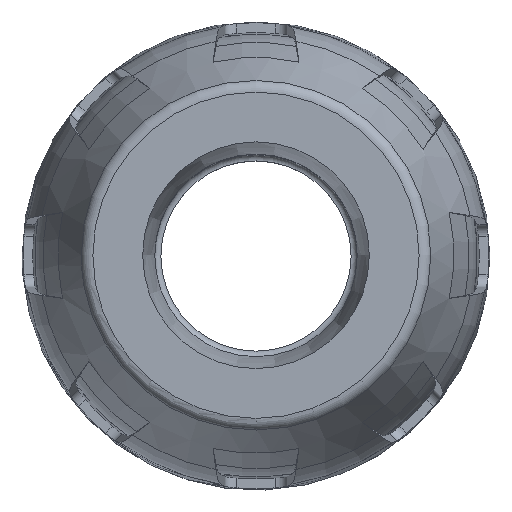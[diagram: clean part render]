
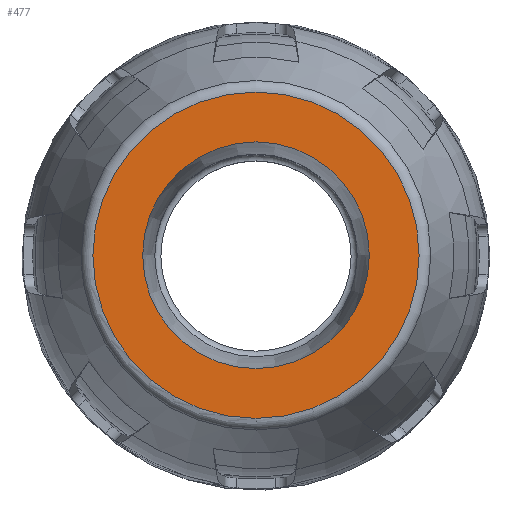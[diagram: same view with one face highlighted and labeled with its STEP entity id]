
A CAD part, top view. The second image highlights one B-rep face of the part: STEP entity #477.
In plain terms, the highlighted planar face has unit normal (0, 0, 1).
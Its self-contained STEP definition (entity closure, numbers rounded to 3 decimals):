
#477 = ADVANCED_FACE( '', ( #1333, #1334 ), #1335, .F. );
#1333 = FACE_BOUND( '', #2632, .T. );
#1334 = FACE_OUTER_BOUND( '', #2633, .T. );
#1335 = PLANE( '', #2634 );
#2632 = EDGE_LOOP( '', ( #5701 ) );
#2633 = EDGE_LOOP( '', ( #5702 ) );
#2634 = AXIS2_PLACEMENT_3D( '', #5703, #5704, #5705 );
#5701 = ORIENTED_EDGE( '', *, *, #9260, .T. );
#5702 = ORIENTED_EDGE( '', *, *, #9261, .F. );
#5703 = CARTESIAN_POINT( '', ( -16.297, 0., 39.65 ) );
#5704 = DIRECTION( '', ( 0., 0., -1. ) );
#5705 = DIRECTION( '', ( -1., 0., 0. ) );
#9260 = EDGE_CURVE( '', #10821, #10821, #10822, .F. );
#9261 = EDGE_CURVE( '', #10823, #10823, #10824, .F. );
#10821 = VERTEX_POINT( '', #13222 );
#10822 = CIRCLE( '', #13223, 9.237 );
#10823 = VERTEX_POINT( '', #13224 );
#10824 = CIRCLE( '', #13225, 13.295 );
#13222 = CARTESIAN_POINT( '', ( -9.237, 0., 39.65 ) );
#13223 = AXIS2_PLACEMENT_3D( '', #17475, #17476, #17477 );
#13224 = CARTESIAN_POINT( '', ( -13.295, 0., 39.65 ) );
#13225 = AXIS2_PLACEMENT_3D( '', #17478, #17479, #17480 );
#17475 = CARTESIAN_POINT( '', ( 0., 0., 39.65 ) );
#17476 = DIRECTION( '', ( 0., 0., 1. ) );
#17477 = DIRECTION( '', ( -1., 0., 0. ) );
#17478 = CARTESIAN_POINT( '', ( 0., 0., 39.65 ) );
#17479 = DIRECTION( '', ( 0., 0., 1. ) );
#17480 = DIRECTION( '', ( -1., 0., 0. ) );
